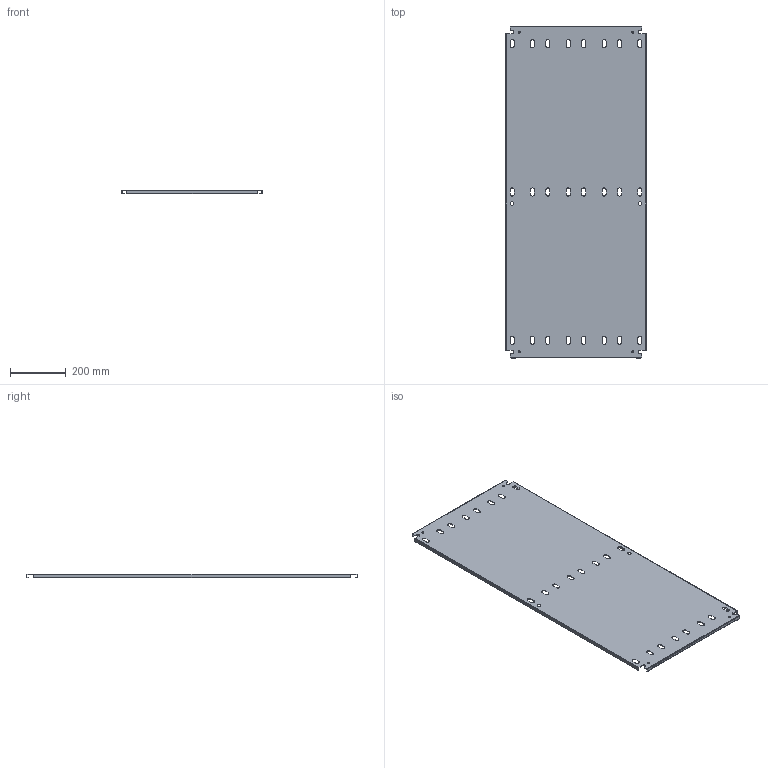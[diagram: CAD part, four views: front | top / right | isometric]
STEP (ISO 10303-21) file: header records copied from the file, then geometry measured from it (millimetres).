
FILE_DESCRIPTION(/* description */ ('1412BTCU 19.838" x 47" Inner Panel'),/* implementation_level */ '2;1');
FILE_NAME(/* name */ 'C:\Vault_Workspace\Inventor_Dwg\BoxCad\Result\1412BTCU06204DT\e-mail\3D\1412BTCU06204DTIP1.stp',/* time_stamp */ '2022-10-18T19:15:22-04:00',/* author */ ('BoxCad'),/* organization */ (''),/* preprocessor_version */ 'ST-DEVELOPER v18.1',/* originating_system */ 'Autodesk Inventor 2020',/* authorisation */ '');
FILE_SCHEMA (('AUTOMOTIVE_DESIGN { 1 0 10303 214 3 1 1 }'));
Length unit declared in the file: inch
Products named in the file (2): 1412BTCU06204DTIP1; 1412BTCU06204DTIP1-P
Assembly tree (1 placements, depth 2):
  1412BTCU06204DTIP1
    1412BTCU06204DTIP1-P
Bounding box: 503.89 x 1193.8 x 13 mm (x, y, z)
Volume: 1120462.8 mm3; surface area: 1307167.7 mm2
Topology: 1 solids, 1 shells, 216 faces, 642 edges, 428 vertices
Faces by surface type: plane 118, cylinder 98
Full cylindrical faces by diameter (mm): 7.366 x4, 12.7 x2
Entity records: 7471 total; most frequent: CARTESIAN_POINT 1289, ORIENTED_EDGE 1284, DIRECTION 1276, EDGE_CURVE 642, LINE 446, VECTOR 446, VERTEX_POINT 428, AXIS2_PLACEMENT_3D 415
